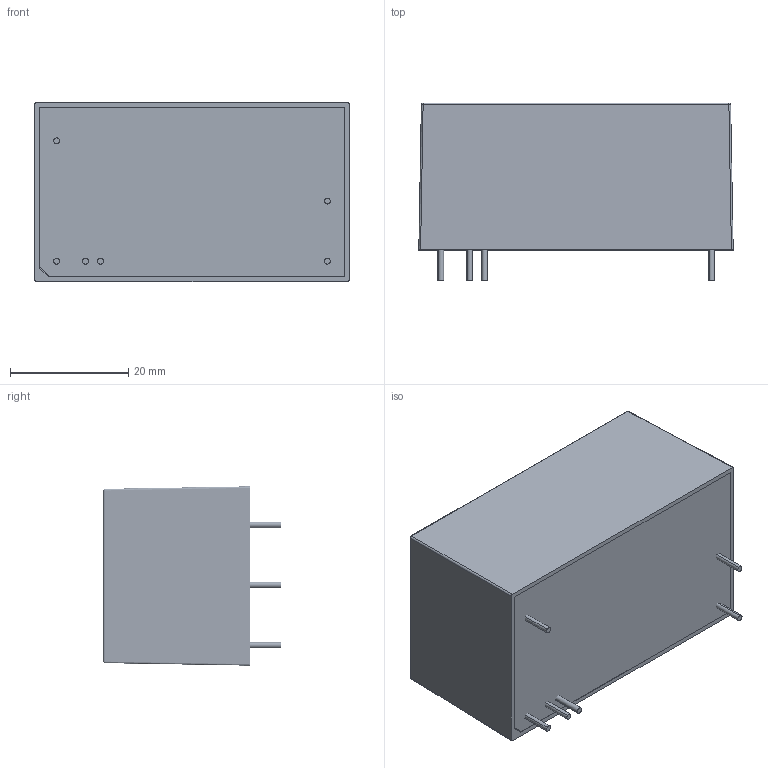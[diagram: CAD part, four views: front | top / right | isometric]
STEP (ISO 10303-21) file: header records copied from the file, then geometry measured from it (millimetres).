
FILE_DESCRIPTION (( 'STEP AP214' ), '1' );
FILE_NAME ('CFM25SXXX-E PL¦¨«~¹Ï(01)-1090421.STEP', '2020-04-21T03:36:26', ( '' ), ( '' ), 'SwSTEP 2.0', 'SolidWorks 2017', '' );
FILE_SCHEMA (( 'AUTOMOTIVE_DESIGN' ));
Length unit declared in the file: millimetre
Products named in the file (19): CFM25 CY4 105,09,01; CFM25變壓器(參考); CFM25SXXX PCB-1051115; CFM25SXXX PCB-1051208; 6W PIN(B)G7200030020-1050920; CFM25SXXX-E PL成品圖(01)-1090421; CFM25S CASE G5689109106 (M-B425-00-M)-1060301; C陶瓷電容d8-1051118; CFM25½¦-1051115; CFM25 CORE; CFM25 L5; D4-1050901; 電晶體10mm; (B)D4-1050901
Assembly tree (19 placements, depth 2):
  CFM25SXXX-E PL成品圖(01)-1090421
    CFM25S CASE G5689109106 (M-B425-00-M)-1060301
    CFM25SXXX PCB-1051115
    電晶體10mm
    CFM25 CORE
    D4-1050901
    C陶瓷電容d8-1051118
    CFM25變壓器(參考)
    CFM25 CY4 105,09,01  x2
    (B)D4-1050901
    CFM25 L5
    CFM25½¦-1051115
    6W PIN(B)G7200030020-1050920
    6W PIN(B)G7200030020-1050920
    6W PIN(B)G7200030020-1050920
    6W PIN(B)G7200030020-1050920
    6W PIN(B)G7200030020-1050920
    6W PIN(B)G7200030020-1050920
    CFM25SXXX PCB-1051208
Bounding box: 53.1 x 30 x 30.3 mm (x, y, z)
Volume: 23173.7 mm3; surface area: 29398.4 mm2
Topology: 23 solids, 23 shells, 2843 faces, 7758 edges, 4732 vertices
Faces by surface type: bspline 1254, cylinder 1252, plane 283, torus 46, sphere 8
Entity records: 121641 total; most frequent: CARTESIAN_POINT 39014, ORIENTED_EDGE 15390, DIRECTION 14599, EDGE_CURVE 7695, AXIS2_PLACEMENT_3D 6375, CIRCLE 4784, VERTEX_POINT 4700, EDGE_LOOP 2885
